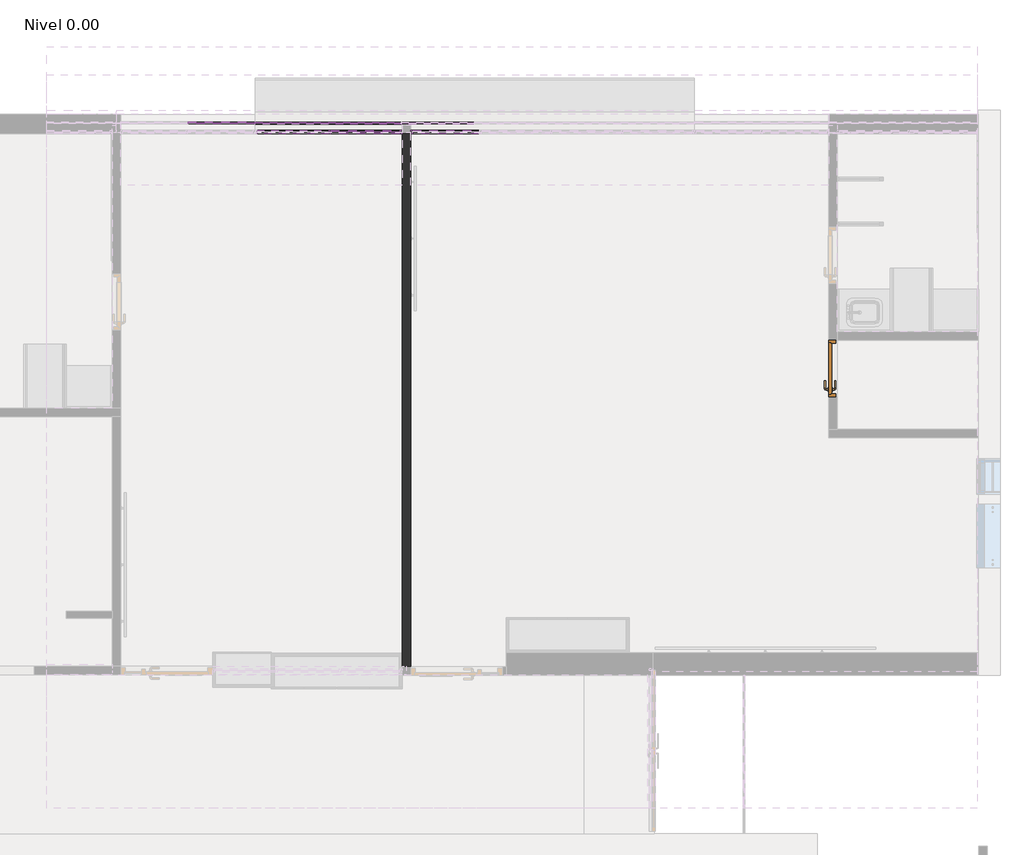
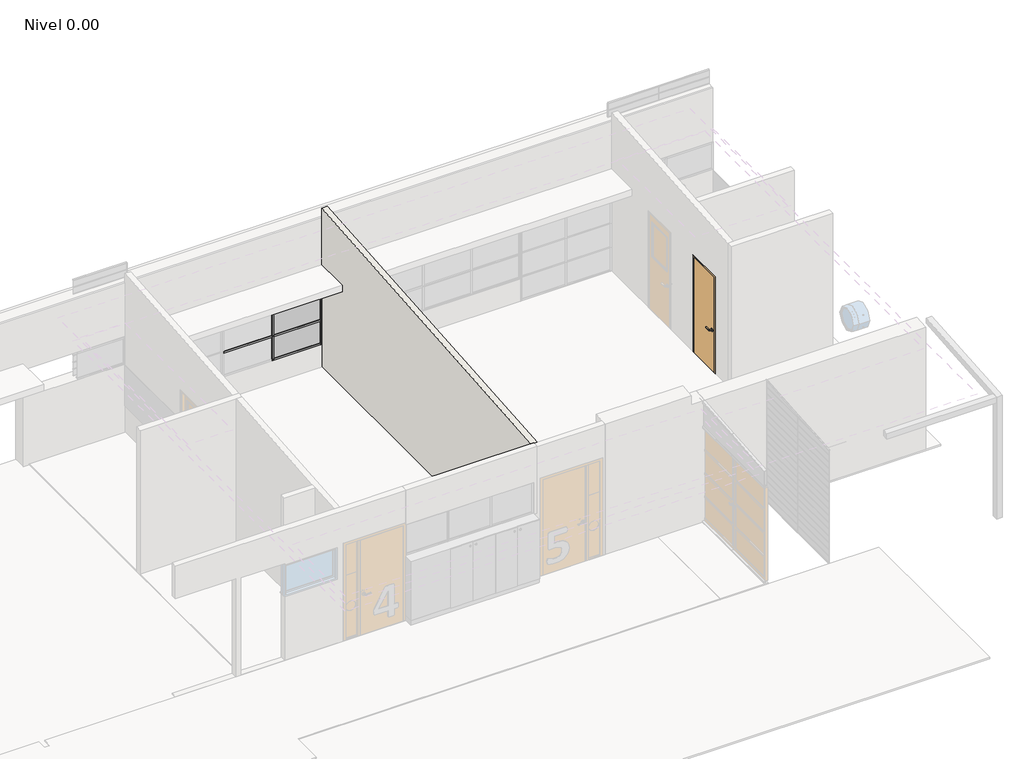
# One storey, part 22 of 27: 93 members, 36 plates, 1 door, 1 wall.
"""IFC4 building model written with IfcOpenShell, lengths in millimetres."""

from ifc_helpers import new_model, si_unit, origin, place, context, project, spatial, faceted_brep, transform, mapped, element, save
from components import puerta_c_06_c06_800x2100mm_e445e519, circular_mullion_e15963ea, circular_mullion_e1cfff8a, l_corner_mullion_3f4548f9, l_corner_mullion_de296168, rectangular_mullion_bbf09746, rectangular_mullion_f7ba8490, rectangular_mullion_367cbfe8, rectangular_mullion_75f94093, rectangular_mullion_56379c35, rectangular_mullion_e1952a32, rectangular_mullion_0dcc9bbc, rectangular_mullion_e6a89077, rectangular_mullion_bccfeea3, rectangular_mullion_bc77bd75, rectangular_mullion_9fa35bb9, system_panel_96c10789, system_panel_978f9d48, system_panel_glazed_52b7ae70, system_panel_glazed_78c145c0

model = new_model("IFC4")

# Units and contexts
model_context = context("Model", 3, world=origin())
ifc_project = project(units=[si_unit("LENGTHUNIT", "METRE", prefix="MILLI")], contexts=[model_context])

# Site, building, storey
site = spatial("IfcSite", under=ifc_project)
building = spatial("IfcBuilding", under=site)
storey = spatial("IfcBuildingStorey", under=building, Name="Nivel 0.00", Elevation=0.0)

# Door
placement = place(None, origin())
puerta_c_06_c06_800x2100mm_shape = puerta_c_06_c06_800x2100mm_e445e519(model_context)
element("IfcDoor", 1, ObjectType="PUERTA_C-06 : C06_800X2100mm", at=placement, inside=storey, context=model_context, shape_type="MappedRepresentation", body=[
    mapped(puerta_c_06_c06_800x2100mm_shape, transform((15551.5453298, 3489.0718892, 0.0), x_axis=(0.0, 1.0, 0.0), y_axis=(-1.0, 0.0, 0.0), z_axis=(0.0, 0.0, 1.0))),
])

# Members
circular_mullion_shape = circular_mullion_e15963ea(model_context)
element("IfcMember", 2, ObjectType="Circular Mullion : ARQ_HERR_16mm", at=placement, inside=storey, context=model_context, shape_type="MappedRepresentation", body=[
    mapped(circular_mullion_shape, transform((9448.8114401, 6959.4460983, 645.4545455), x_axis=(0.0, 0.0, 1.0), y_axis=(0.0, 1.0, 0.0), z_axis=(-1.0, 0.0, 0.0))),
])
element("IfcMember", 3, ObjectType="Circular Mullion : ARQ_HERR_16mm", at=placement, inside=storey, context=model_context, shape_type="MappedRepresentation", body=[
    mapped(circular_mullion_shape, transform((8414.8176411, 6959.4460983, 645.4545455), x_axis=(0.0, 0.0, 1.0), y_axis=(0.0, 1.0, 0.0), z_axis=(-1.0, 0.0, 0.0))),
])
element("IfcMember", 4, ObjectType="Circular Mullion : ARQ_HERR_16mm", at=placement, inside=storey, context=model_context, shape_type="MappedRepresentation", body=[
    mapped(circular_mullion_shape, transform((9448.8114401, 6959.4460983, 790.9090909), x_axis=(0.0, 0.0, 1.0), y_axis=(0.0, 1.0, 0.0), z_axis=(-1.0, 0.0, 0.0))),
])
element("IfcMember", 5, ObjectType="Circular Mullion : ARQ_HERR_16mm", at=placement, inside=storey, context=model_context, shape_type="MappedRepresentation", body=[
    mapped(circular_mullion_shape, transform((8414.8176411, 6959.4460983, 790.9090909), x_axis=(0.0, 0.0, 1.0), y_axis=(0.0, 1.0, 0.0), z_axis=(-1.0, 0.0, 0.0))),
])
element("IfcMember", 6, ObjectType="Circular Mullion : ARQ_HERR_16mm", at=placement, inside=storey, context=model_context, shape_type="MappedRepresentation", body=[
    mapped(circular_mullion_shape, transform((9448.8114401, 6959.4460983, 936.3636364), x_axis=(0.0, 0.0, 1.0), y_axis=(0.0, 1.0, 0.0), z_axis=(-1.0, 0.0, 0.0))),
])
element("IfcMember", 7, ObjectType="Circular Mullion : ARQ_HERR_16mm", at=placement, inside=storey, context=model_context, shape_type="MappedRepresentation", body=[
    mapped(circular_mullion_shape, transform((8414.8176411, 6959.4460983, 936.3636364), x_axis=(0.0, 0.0, 1.0), y_axis=(0.0, 1.0, 0.0), z_axis=(-1.0, 0.0, 0.0))),
])
element("IfcMember", 8, ObjectType="Circular Mullion : ARQ_HERR_16mm", at=placement, inside=storey, context=model_context, shape_type="MappedRepresentation", body=[
    mapped(circular_mullion_shape, transform((9448.8114401, 6959.4460983, 1081.8181818), x_axis=(0.0, 0.0, 1.0), y_axis=(0.0, 1.0, 0.0), z_axis=(-1.0, 0.0, 0.0))),
])
element("IfcMember", 9, ObjectType="Circular Mullion : ARQ_HERR_16mm", at=placement, inside=storey, context=model_context, shape_type="MappedRepresentation", body=[
    mapped(circular_mullion_shape, transform((8414.8176411, 6959.4460983, 1081.8181818), x_axis=(0.0, 0.0, 1.0), y_axis=(0.0, 1.0, 0.0), z_axis=(-1.0, 0.0, 0.0))),
])
element("IfcMember", 10, ObjectType="Circular Mullion : ARQ_HERR_16mm", at=placement, inside=storey, context=model_context, shape_type="MappedRepresentation", body=[
    mapped(circular_mullion_shape, transform((9448.8114401, 6959.4460983, 1227.2727273), x_axis=(0.0, 0.0, 1.0), y_axis=(0.0, 1.0, 0.0), z_axis=(-1.0, 0.0, 0.0))),
])
element("IfcMember", 11, ObjectType="Circular Mullion : ARQ_HERR_16mm", at=placement, inside=storey, context=model_context, shape_type="MappedRepresentation", body=[
    mapped(circular_mullion_shape, transform((8414.8176411, 6959.4460983, 1227.2727273), x_axis=(0.0, 0.0, 1.0), y_axis=(0.0, 1.0, 0.0), z_axis=(-1.0, 0.0, 0.0))),
])
element("IfcMember", 12, ObjectType="Circular Mullion : ARQ_HERR_16mm", at=placement, inside=storey, context=model_context, shape_type="MappedRepresentation", body=[
    mapped(circular_mullion_shape, transform((9448.8114401, 6959.4460983, 1372.7272727), x_axis=(0.0, 0.0, 1.0), y_axis=(0.0, 1.0, 0.0), z_axis=(-1.0, 0.0, 0.0))),
])
element("IfcMember", 13, ObjectType="Circular Mullion : ARQ_HERR_16mm", at=placement, inside=storey, context=model_context, shape_type="MappedRepresentation", body=[
    mapped(circular_mullion_shape, transform((8414.8176411, 6959.4460983, 1372.7272727), x_axis=(0.0, 0.0, 1.0), y_axis=(0.0, 1.0, 0.0), z_axis=(-1.0, 0.0, 0.0))),
])
element("IfcMember", 14, ObjectType="Circular Mullion : ARQ_HERR_16mm", at=placement, inside=storey, context=model_context, shape_type="MappedRepresentation", body=[
    mapped(circular_mullion_shape, transform((8414.8176411, 6959.4460983, 1518.1818182), x_axis=(0.0, 0.0, 1.0), y_axis=(0.0, 1.0, 0.0), z_axis=(-1.0, 0.0, 0.0))),
])
element("IfcMember", 15, ObjectType="Circular Mullion : ARQ_HERR_16mm", at=placement, inside=storey, context=model_context, shape_type="MappedRepresentation", body=[
    mapped(circular_mullion_shape, transform((8414.8176411, 6959.4460983, 1663.6363636), x_axis=(0.0, 0.0, 1.0), y_axis=(0.0, 1.0, 0.0), z_axis=(-1.0, 0.0, 0.0))),
])
element("IfcMember", 16, ObjectType="Circular Mullion : ARQ_HERR_16mm", at=placement, inside=storey, context=model_context, shape_type="MappedRepresentation", body=[
    mapped(circular_mullion_shape, transform((8414.8176411, 6959.4460983, 1809.0909091), x_axis=(0.0, 0.0, 1.0), y_axis=(0.0, 1.0, 0.0), z_axis=(-1.0, 0.0, 0.0))),
])
element("IfcMember", 17, ObjectType="Circular Mullion : ARQ_HERR_16mm", at=placement, inside=storey, context=model_context, shape_type="MappedRepresentation", body=[
    mapped(circular_mullion_shape, transform((8414.8176411, 6959.4460983, 1954.5454545), x_axis=(0.0, 0.0, 1.0), y_axis=(0.0, 1.0, 0.0), z_axis=(-1.0, 0.0, 0.0))),
])
element("IfcMember", 18, ObjectType="Circular Mullion : ARQ_HERR_16mm", at=placement, inside=storey, context=model_context, shape_type="MappedRepresentation", body=[
    mapped(circular_mullion_shape, transform((7380.8238418, 6959.4460983, 645.4545455), x_axis=(0.0, 0.0, 1.0), y_axis=(0.0, 1.0, 0.0), z_axis=(-1.0, 0.0, 0.0))),
])
element("IfcMember", 19, ObjectType="Circular Mullion : ARQ_HERR_16mm", at=placement, inside=storey, context=model_context, shape_type="MappedRepresentation", body=[
    mapped(circular_mullion_shape, transform((7380.8238418, 6959.4460983, 790.9090909), x_axis=(0.0, 0.0, 1.0), y_axis=(0.0, 1.0, 0.0), z_axis=(-1.0, 0.0, 0.0))),
])
element("IfcMember", 20, ObjectType="Circular Mullion : ARQ_HERR_16mm", at=placement, inside=storey, context=model_context, shape_type="MappedRepresentation", body=[
    mapped(circular_mullion_shape, transform((7380.8238418, 6959.4460983, 936.3636364), x_axis=(0.0, 0.0, 1.0), y_axis=(0.0, 1.0, 0.0), z_axis=(-1.0, 0.0, 0.0))),
])
element("IfcMember", 21, ObjectType="Circular Mullion : ARQ_HERR_16mm", at=placement, inside=storey, context=model_context, shape_type="MappedRepresentation", body=[
    mapped(circular_mullion_shape, transform((7380.8238418, 6959.4460983, 1081.8181818), x_axis=(0.0, 0.0, 1.0), y_axis=(0.0, 1.0, 0.0), z_axis=(-1.0, 0.0, 0.0))),
])
element("IfcMember", 22, ObjectType="Circular Mullion : ARQ_HERR_16mm", at=placement, inside=storey, context=model_context, shape_type="MappedRepresentation", body=[
    mapped(circular_mullion_shape, transform((7380.8238418, 6959.4460983, 1227.2727273), x_axis=(0.0, 0.0, 1.0), y_axis=(0.0, 1.0, 0.0), z_axis=(-1.0, 0.0, 0.0))),
])
element("IfcMember", 23, ObjectType="Circular Mullion : ARQ_HERR_16mm", at=placement, inside=storey, context=model_context, shape_type="MappedRepresentation", body=[
    mapped(circular_mullion_shape, transform((7380.8238418, 6959.4460983, 1372.7272727), x_axis=(0.0, 0.0, 1.0), y_axis=(0.0, 1.0, 0.0), z_axis=(-1.0, 0.0, 0.0))),
])
element("IfcMember", 24, ObjectType="Circular Mullion : ARQ_HERR_16mm", at=placement, inside=storey, context=model_context, shape_type="MappedRepresentation", body=[
    mapped(circular_mullion_shape, transform((7380.8238418, 6959.4460983, 1518.1818182), x_axis=(0.0, 0.0, 1.0), y_axis=(0.0, 1.0, 0.0), z_axis=(-1.0, 0.0, 0.0))),
])
element("IfcMember", 25, ObjectType="Circular Mullion : ARQ_HERR_16mm", at=placement, inside=storey, context=model_context, shape_type="MappedRepresentation", body=[
    mapped(circular_mullion_shape, transform((7380.8238418, 6959.4460983, 1663.6363636), x_axis=(0.0, 0.0, 1.0), y_axis=(0.0, 1.0, 0.0), z_axis=(-1.0, 0.0, 0.0))),
])
element("IfcMember", 26, ObjectType="Circular Mullion : ARQ_HERR_16mm", at=placement, inside=storey, context=model_context, shape_type="MappedRepresentation", body=[
    mapped(circular_mullion_shape, transform((7380.8238418, 6959.4460983, 1809.0909091), x_axis=(0.0, 0.0, 1.0), y_axis=(0.0, 1.0, 0.0), z_axis=(-1.0, 0.0, 0.0))),
])
element("IfcMember", 27, ObjectType="Circular Mullion : ARQ_HERR_16mm", at=placement, inside=storey, context=model_context, shape_type="MappedRepresentation", body=[
    mapped(circular_mullion_shape, transform((7380.8238418, 6959.4460983, 1954.5454545), x_axis=(0.0, 0.0, 1.0), y_axis=(0.0, 1.0, 0.0), z_axis=(-1.0, 0.0, 0.0))),
])
circular_mullion_2_shape = circular_mullion_e1cfff8a(model_context)
element("IfcMember", 28, ObjectType="Circular Mullion : ARQ_HERR_16mm", at=placement, inside=storey, context=model_context, shape_type="MappedRepresentation", body=[
    mapped(circular_mullion_2_shape, transform((7368.6614898, 6959.43912, 150.0), x_axis=(0.0, 0.0, 1.0), y_axis=(0.0, -1.0, 0.0), z_axis=(1.0, 0.0, 0.0))),
])
element("IfcMember", 29, ObjectType="Circular Mullion : ARQ_HERR_16mm", at=placement, inside=storey, context=model_context, shape_type="MappedRepresentation", body=[
    mapped(circular_mullion_2_shape, transform((7368.6614898, 6959.43912, 300.0), x_axis=(0.0, 0.0, 1.0), y_axis=(0.0, -1.0, 0.0), z_axis=(1.0, 0.0, 0.0))),
])
element("IfcMember", 30, ObjectType="Circular Mullion : ARQ_HERR_16mm", at=placement, inside=storey, context=model_context, shape_type="MappedRepresentation", body=[
    mapped(circular_mullion_2_shape, transform((7368.6614898, 6959.43912, 450.0), x_axis=(0.0, 0.0, 1.0), y_axis=(0.0, -1.0, 0.0), z_axis=(1.0, 0.0, 0.0))),
])
element("IfcMember", 31, ObjectType="Circular Mullion : ARQ_HERR_16mm", at=placement, inside=storey, context=model_context, shape_type="MappedRepresentation", body=[
    mapped(circular_mullion_2_shape, transform((7368.6614898, 6959.43912, 600.0), x_axis=(0.0, 0.0, 1.0), y_axis=(0.0, -1.0, 0.0), z_axis=(1.0, 0.0, 0.0))),
])
element("IfcMember", 32, ObjectType="Circular Mullion : ARQ_HERR_16mm", at=placement, inside=storey, context=model_context, shape_type="MappedRepresentation", body=[
    mapped(circular_mullion_2_shape, transform((7368.6614898, 6959.43912, 750.0), x_axis=(0.0, 0.0, 1.0), y_axis=(0.0, -1.0, 0.0), z_axis=(1.0, 0.0, 0.0))),
])
element("IfcMember", 33, ObjectType="Circular Mullion : ARQ_HERR_16mm", at=placement, inside=storey, context=model_context, shape_type="MappedRepresentation", body=[
    mapped(circular_mullion_2_shape, transform((7368.6614898, 6959.43912, 900.0), x_axis=(0.0, 0.0, 1.0), y_axis=(0.0, -1.0, 0.0), z_axis=(1.0, 0.0, 0.0))),
])
element("IfcMember", 34, ObjectType="Circular Mullion : ARQ_HERR_16mm", at=placement, inside=storey, context=model_context, shape_type="MappedRepresentation", body=[
    mapped(circular_mullion_2_shape, transform((7368.6614898, 6959.43912, 1050.0), x_axis=(0.0, 0.0, 1.0), y_axis=(0.0, -1.0, 0.0), z_axis=(1.0, 0.0, 0.0))),
])
element("IfcMember", 35, ObjectType="Circular Mullion : ARQ_HERR_16mm", at=placement, inside=storey, context=model_context, shape_type="MappedRepresentation", body=[
    mapped(circular_mullion_2_shape, transform((7368.6614898, 6959.43912, 1200.0), x_axis=(0.0, 0.0, 1.0), y_axis=(0.0, -1.0, 0.0), z_axis=(1.0, 0.0, 0.0))),
])
element("IfcMember", 36, ObjectType="Circular Mullion : ARQ_HERR_16mm", at=placement, inside=storey, context=model_context, shape_type="MappedRepresentation", body=[
    mapped(circular_mullion_2_shape, transform((7368.6614898, 6959.43912, 1350.0), x_axis=(0.0, 0.0, 1.0), y_axis=(0.0, -1.0, 0.0), z_axis=(1.0, 0.0, 0.0))),
])
element("IfcMember", 37, ObjectType="Circular Mullion : ARQ_HERR_16mm", at=placement, inside=storey, context=model_context, shape_type="MappedRepresentation", body=[
    mapped(circular_mullion_2_shape, transform((7368.6614898, 6959.43912, 1500.0), x_axis=(0.0, 0.0, 1.0), y_axis=(0.0, -1.0, 0.0), z_axis=(1.0, 0.0, 0.0))),
])
element("IfcMember", 38, ObjectType="Circular Mullion : ARQ_HERR_16mm", at=placement, inside=storey, context=model_context, shape_type="MappedRepresentation", body=[
    mapped(circular_mullion_2_shape, transform((7368.6614898, 6959.43912, 1650.0), x_axis=(0.0, 0.0, 1.0), y_axis=(0.0, -1.0, 0.0), z_axis=(1.0, 0.0, 0.0))),
])
element("IfcMember", 39, ObjectType="Circular Mullion : ARQ_HERR_16mm", at=placement, inside=storey, context=model_context, shape_type="MappedRepresentation", body=[
    mapped(circular_mullion_2_shape, transform((7368.6614898, 6959.43912, 1800.0), x_axis=(0.0, 0.0, 1.0), y_axis=(0.0, -1.0, 0.0), z_axis=(1.0, 0.0, 0.0))),
])
element("IfcMember", 40, ObjectType="Circular Mullion : ARQ_HERR_16mm", at=placement, inside=storey, context=model_context, shape_type="MappedRepresentation", body=[
    mapped(circular_mullion_2_shape, transform((7368.6614898, 6959.43912, 1950.0), x_axis=(0.0, 0.0, 1.0), y_axis=(0.0, -1.0, 0.0), z_axis=(1.0, 0.0, 0.0))),
])
l_corner_mullion_shape = l_corner_mullion_3f4548f9(model_context)
element("IfcMember", 41, ObjectType="L Corner Mullion : ARQ_HERR_15X6mm", at=placement, inside=storey, context=model_context, shape_type="MappedRepresentation", body=[
    mapped(l_corner_mullion_shape, transform((9448.8114401, 6959.4460983, 2100.0), x_axis=(0.0, 0.0, 1.0), y_axis=(0.0, 1.0, 0.0), z_axis=(-1.0, 0.0, 0.0))),
])
element("IfcMember", 42, ObjectType="L Corner Mullion : ARQ_HERR_15X6mm", at=placement, inside=storey, context=model_context, shape_type="MappedRepresentation", body=[
    mapped(l_corner_mullion_shape, transform((8414.8176411, 6959.4460983, 2100.0), x_axis=(0.0, 0.0, 1.0), y_axis=(0.0, 1.0, 0.0), z_axis=(-1.0, 0.0, 0.0))),
])
element("IfcMember", 43, ObjectType="L Corner Mullion : ARQ_HERR_15X6mm", at=placement, inside=storey, context=model_context, shape_type="MappedRepresentation", body=[
    mapped(l_corner_mullion_shape, transform((9442.8114401, 6959.4460983, 500.0), x_axis=(0.0, 0.0, -1.0), y_axis=(0.0, 1.0, 0.0), z_axis=(1.0, 0.0, 0.0))),
])
element("IfcMember", 44, ObjectType="L Corner Mullion : ARQ_HERR_15X6mm", at=placement, inside=storey, context=model_context, shape_type="MappedRepresentation", body=[
    mapped(l_corner_mullion_shape, transform((8408.8176411, 6959.4460983, 500.0), x_axis=(0.0, 0.0, -1.0), y_axis=(0.0, 1.0, 0.0), z_axis=(1.0, 0.0, 0.0))),
])
l_corner_mullion_2_shape = l_corner_mullion_de296168(model_context)
element("IfcMember", 45, ObjectType="L Corner Mullion : ARQ_HERR_15X6mm", at=placement, inside=storey, context=model_context, shape_type="MappedRepresentation", body=[
    mapped(l_corner_mullion_2_shape, transform((7368.6614898, 6959.43912, 2100.0), x_axis=(0.0, 0.0, 1.0), y_axis=(0.0, -1.0, 0.0), z_axis=(1.0, 0.0, 0.0))),
])
rectangular_mullion_shape = rectangular_mullion_bbf09746(model_context)
element("IfcMember", 46, ObjectType="Rectangular Mullion : ARQ_TV_MULL_50x30mm", at=placement, inside=storey, context=model_context, shape_type="MappedRepresentation", body=[
    mapped(rectangular_mullion_shape, transform((8429.5903101, 6834.4460983, 500.0), x_axis=(1.0, 0.0, 0.0), y_axis=(0.0, -1.0, 0.0), z_axis=(0.0, 0.0, -1.0))),
])
element("IfcMember", 47, ObjectType="Rectangular Mullion : ARQ_TV_MULL_50x30mm", at=placement, inside=storey, context=model_context, shape_type="MappedRepresentation", body=[
    mapped(rectangular_mullion_shape, transform((8429.5903101, 6834.4460983, 1033.3333333), x_axis=(1.0, 0.0, 0.0), y_axis=(0.0, -1.0, 0.0), z_axis=(0.0, 0.0, -1.0))),
])
element("IfcMember", 48, ObjectType="Rectangular Mullion : ARQ_TV_MULL_50x30mm", at=placement, inside=storey, context=model_context, shape_type="MappedRepresentation", body=[
    mapped(rectangular_mullion_shape, transform((8429.5903101, 6834.4460983, 1566.6666667), x_axis=(1.0, 0.0, 0.0), y_axis=(0.0, -1.0, 0.0), z_axis=(0.0, 0.0, -1.0))),
])
rectangular_mullion_2_shape = rectangular_mullion_f7ba8490(model_context)
element("IfcMember", 49, ObjectType="Rectangular Mullion : ARQ_TV_MULL_50x30mm", at=placement, inside=storey, context=model_context, shape_type="MappedRepresentation", body=[
    mapped(rectangular_mullion_2_shape, transform((9574.3567784, 6834.4391195, 500.0), x_axis=(-1.0, 0.0, 0.0), y_axis=(0.0, 1.0, 0.0), z_axis=(0.0, 0.0, -1.0))),
])
element("IfcMember", 50, ObjectType="Rectangular Mullion : ARQ_TV_MULL_50x30mm", at=placement, inside=storey, context=model_context, shape_type="MappedRepresentation", body=[
    mapped(rectangular_mullion_2_shape, transform((9454.3567784, 6834.4460983, 500.0), x_axis=(1.0, 0.0, 0.0), y_axis=(0.0, -1.0, 0.0), z_axis=(0.0, 0.0, -1.0))),
])
element("IfcMember", 51, ObjectType="Rectangular Mullion : ARQ_TV_MULL_50x30mm", at=placement, inside=storey, context=model_context, shape_type="MappedRepresentation", body=[
    mapped(rectangular_mullion_2_shape, transform((9574.3567784, 6834.4391195, 1033.3333333), x_axis=(-1.0, 0.0, 0.0), y_axis=(0.0, 1.0, 0.0), z_axis=(0.0, 0.0, -1.0))),
])
element("IfcMember", 52, ObjectType="Rectangular Mullion : ARQ_TV_MULL_50x30mm", at=placement, inside=storey, context=model_context, shape_type="MappedRepresentation", body=[
    mapped(rectangular_mullion_2_shape, transform((9454.3567784, 6834.4460983, 1033.3333333), x_axis=(1.0, 0.0, 0.0), y_axis=(0.0, -1.0, 0.0), z_axis=(0.0, 0.0, -1.0))),
])
element("IfcMember", 53, ObjectType="Rectangular Mullion : ARQ_TV_MULL_50x30mm", at=placement, inside=storey, context=model_context, shape_type="MappedRepresentation", body=[
    mapped(rectangular_mullion_2_shape, transform((9574.3567784, 6834.4391195, 1566.6666667), x_axis=(-1.0, 0.0, 0.0), y_axis=(0.0, 1.0, 0.0), z_axis=(0.0, 0.0, -1.0))),
])
element("IfcMember", 54, ObjectType="Rectangular Mullion : ARQ_TV_MULL_50x30mm", at=placement, inside=storey, context=model_context, shape_type="MappedRepresentation", body=[
    mapped(rectangular_mullion_2_shape, transform((9454.3567784, 6834.4460983, 1566.6666667), x_axis=(1.0, 0.0, 0.0), y_axis=(0.0, -1.0, 0.0), z_axis=(0.0, 0.0, -1.0))),
])
rectangular_mullion_3_shape = rectangular_mullion_367cbfe8(model_context)
element("IfcMember", 55, ObjectType="Rectangular Mullion : ARQ_TV_MULL_50x30mm", at=placement, inside=storey, context=model_context, shape_type="MappedRepresentation", body=[
    mapped(rectangular_mullion_3_shape, transform((9604.3567784, 6834.4391195, 2100.0), x_axis=(0.0, 0.0, 1.0), y_axis=(0.0, 1.0, 0.0), z_axis=(-1.0, 0.0, 0.0))),
])
rectangular_mullion_4_shape = rectangular_mullion_75f94093(model_context)
element("IfcMember", 56, ObjectType="Rectangular Mullion : ARQ_TV_MULL_50x30mm", at=placement, inside=storey, context=model_context, shape_type="MappedRepresentation", body=[
    mapped(rectangular_mullion_4_shape, transform((9604.3567784, 6834.4391195, 1033.3333333), x_axis=(0.0, 0.0, 1.0), y_axis=(0.0, 1.0, 0.0), z_axis=(-1.0, 0.0, 0.0))),
])
element("IfcMember", 57, ObjectType="Rectangular Mullion : ARQ_TV_MULL_50x30mm", at=placement, inside=storey, context=model_context, shape_type="MappedRepresentation", body=[
    mapped(rectangular_mullion_4_shape, transform((9604.3567784, 6834.4391195, 1566.6666667), x_axis=(0.0, 0.0, 1.0), y_axis=(0.0, 1.0, 0.0), z_axis=(-1.0, 0.0, 0.0))),
])
rectangular_mullion_5_shape = rectangular_mullion_56379c35(model_context)
element("IfcMember", 58, ObjectType="Rectangular Mullion : ARQ_TV_MULL_50x30mm", at=placement, inside=storey, context=model_context, shape_type="MappedRepresentation", body=[
    mapped(rectangular_mullion_5_shape, transform((9424.3567784, 6834.4460983, 2100.0), x_axis=(0.0, 0.0, 1.0), y_axis=(0.0, -1.0, 0.0), z_axis=(1.0, 0.0, 0.0))),
])
rectangular_mullion_6_shape = rectangular_mullion_e1952a32(model_context)
element("IfcMember", 59, ObjectType="Rectangular Mullion : ARQ_TV_MULL_50x30mm", at=placement, inside=storey, context=model_context, shape_type="MappedRepresentation", body=[
    mapped(rectangular_mullion_6_shape, transform((8414.5903101, 6834.4460983, 2100.0), x_axis=(0.0, 0.0, 1.0), y_axis=(0.0, -1.0, 0.0), z_axis=(1.0, 0.0, 0.0))),
])
element("IfcMember", 60, ObjectType="Rectangular Mullion : ARQ_TV_MULL_50x30mm", at=placement, inside=storey, context=model_context, shape_type="MappedRepresentation", body=[
    mapped(rectangular_mullion_5_shape, transform((8444.5903101, 6834.4460983, 500.0), x_axis=(0.0, 0.0, -1.0), y_axis=(0.0, -1.0, 0.0), z_axis=(-1.0, 0.0, 0.0))),
])
rectangular_mullion_7_shape = rectangular_mullion_0dcc9bbc(model_context)
element("IfcMember", 61, ObjectType="Rectangular Mullion : ARQ_TV_MULL_50x30mm", at=placement, inside=storey, context=model_context, shape_type="MappedRepresentation", body=[
    mapped(rectangular_mullion_7_shape, transform((8414.5903101, 6834.4460983, 1033.3333333), x_axis=(0.0, 0.0, 1.0), y_axis=(0.0, -1.0, 0.0), z_axis=(1.0, 0.0, 0.0))),
])
element("IfcMember", 62, ObjectType="Rectangular Mullion : ARQ_TV_MULL_50x30mm", at=placement, inside=storey, context=model_context, shape_type="MappedRepresentation", body=[
    mapped(rectangular_mullion_7_shape, transform((8414.5903101, 6834.4460983, 1566.6666667), x_axis=(0.0, 0.0, 1.0), y_axis=(0.0, -1.0, 0.0), z_axis=(1.0, 0.0, 0.0))),
])
rectangular_mullion_8_shape = rectangular_mullion_e6a89077(model_context)
element("IfcMember", 63, ObjectType="Rectangular Mullion : ARQ_TV_MULL_50x30mm", at=placement, inside=storey, context=model_context, shape_type="MappedRepresentation", body=[
    mapped(rectangular_mullion_8_shape, transform((9424.3567784, 6834.4460983, 1033.3333333), x_axis=(0.0, 0.0, 1.0), y_axis=(0.0, -1.0, 0.0), z_axis=(1.0, 0.0, 0.0))),
])
element("IfcMember", 64, ObjectType="Rectangular Mullion : ARQ_TV_MULL_50x30mm", at=placement, inside=storey, context=model_context, shape_type="MappedRepresentation", body=[
    mapped(rectangular_mullion_8_shape, transform((9424.3567784, 6834.4460983, 1566.6666667), x_axis=(0.0, 0.0, 1.0), y_axis=(0.0, -1.0, 0.0), z_axis=(1.0, 0.0, 0.0))),
])
rectangular_mullion_9_shape = rectangular_mullion_bccfeea3(model_context)
element("IfcMember", 65, ObjectType="Rectangular Mullion : ARQ_HERR_15X6mm", at=placement, inside=storey, context=model_context, shape_type="MappedRepresentation", body=[
    mapped(rectangular_mullion_9_shape, transform((7374.6614898, 6959.43912, 0.0), x_axis=(1.0, 0.0, 0.0), y_axis=(0.0, -1.0, 0.0), z_axis=(0.0, 0.0, -1.0))),
])
element("IfcMember", 66, ObjectType="Rectangular Mullion : ARQ_HERR_15X6mm", at=placement, inside=storey, context=model_context, shape_type="MappedRepresentation", body=[
    mapped(rectangular_mullion_9_shape, transform((7374.6614898, 6959.43912, 150.0), x_axis=(1.0, 0.0, 0.0), y_axis=(0.0, -1.0, 0.0), z_axis=(0.0, 0.0, -1.0))),
])
element("IfcMember", 67, ObjectType="Rectangular Mullion : ARQ_HERR_15X6mm", at=placement, inside=storey, context=model_context, shape_type="MappedRepresentation", body=[
    mapped(rectangular_mullion_9_shape, transform((7374.6614898, 6959.43912, 300.0), x_axis=(1.0, 0.0, 0.0), y_axis=(0.0, -1.0, 0.0), z_axis=(0.0, 0.0, -1.0))),
])
element("IfcMember", 68, ObjectType="Rectangular Mullion : ARQ_HERR_15X6mm", at=placement, inside=storey, context=model_context, shape_type="MappedRepresentation", body=[
    mapped(rectangular_mullion_9_shape, transform((7374.6614898, 6959.43912, 450.0), x_axis=(1.0, 0.0, 0.0), y_axis=(0.0, -1.0, 0.0), z_axis=(0.0, 0.0, -1.0))),
])
element("IfcMember", 69, ObjectType="Rectangular Mullion : ARQ_HERR_15X6mm", at=placement, inside=storey, context=model_context, shape_type="MappedRepresentation", body=[
    mapped(rectangular_mullion_9_shape, transform((7374.6614898, 6959.43912, 600.0), x_axis=(1.0, 0.0, 0.0), y_axis=(0.0, -1.0, 0.0), z_axis=(0.0, 0.0, -1.0))),
])
element("IfcMember", 70, ObjectType="Rectangular Mullion : ARQ_HERR_15X6mm", at=placement, inside=storey, context=model_context, shape_type="MappedRepresentation", body=[
    mapped(rectangular_mullion_9_shape, transform((7374.6614898, 6959.43912, 750.0), x_axis=(1.0, 0.0, 0.0), y_axis=(0.0, -1.0, 0.0), z_axis=(0.0, 0.0, -1.0))),
])
element("IfcMember", 71, ObjectType="Rectangular Mullion : ARQ_HERR_15X6mm", at=placement, inside=storey, context=model_context, shape_type="MappedRepresentation", body=[
    mapped(rectangular_mullion_9_shape, transform((7374.6614898, 6959.43912, 900.0), x_axis=(1.0, 0.0, 0.0), y_axis=(0.0, -1.0, 0.0), z_axis=(0.0, 0.0, -1.0))),
])
element("IfcMember", 72, ObjectType="Rectangular Mullion : ARQ_HERR_15X6mm", at=placement, inside=storey, context=model_context, shape_type="MappedRepresentation", body=[
    mapped(rectangular_mullion_9_shape, transform((7374.6614898, 6959.43912, 1050.0), x_axis=(1.0, 0.0, 0.0), y_axis=(0.0, -1.0, 0.0), z_axis=(0.0, 0.0, -1.0))),
])
element("IfcMember", 73, ObjectType="Rectangular Mullion : ARQ_HERR_15X6mm", at=placement, inside=storey, context=model_context, shape_type="MappedRepresentation", body=[
    mapped(rectangular_mullion_9_shape, transform((7374.6614898, 6959.43912, 1200.0), x_axis=(1.0, 0.0, 0.0), y_axis=(0.0, -1.0, 0.0), z_axis=(0.0, 0.0, -1.0))),
])
element("IfcMember", 74, ObjectType="Rectangular Mullion : ARQ_HERR_15X6mm", at=placement, inside=storey, context=model_context, shape_type="MappedRepresentation", body=[
    mapped(rectangular_mullion_9_shape, transform((7374.6614898, 6959.43912, 1350.0), x_axis=(1.0, 0.0, 0.0), y_axis=(0.0, -1.0, 0.0), z_axis=(0.0, 0.0, -1.0))),
])
element("IfcMember", 75, ObjectType="Rectangular Mullion : ARQ_HERR_15X6mm", at=placement, inside=storey, context=model_context, shape_type="MappedRepresentation", body=[
    mapped(rectangular_mullion_9_shape, transform((7374.6614898, 6959.43912, 1500.0), x_axis=(1.0, 0.0, 0.0), y_axis=(0.0, -1.0, 0.0), z_axis=(0.0, 0.0, -1.0))),
])
element("IfcMember", 76, ObjectType="Rectangular Mullion : ARQ_HERR_15X6mm", at=placement, inside=storey, context=model_context, shape_type="MappedRepresentation", body=[
    mapped(rectangular_mullion_9_shape, transform((7374.6614898, 6959.43912, 1650.0), x_axis=(1.0, 0.0, 0.0), y_axis=(0.0, -1.0, 0.0), z_axis=(0.0, 0.0, -1.0))),
])
element("IfcMember", 77, ObjectType="Rectangular Mullion : ARQ_HERR_15X6mm", at=placement, inside=storey, context=model_context, shape_type="MappedRepresentation", body=[
    mapped(rectangular_mullion_9_shape, transform((7374.6614898, 6959.43912, 1800.0), x_axis=(1.0, 0.0, 0.0), y_axis=(0.0, -1.0, 0.0), z_axis=(0.0, 0.0, -1.0))),
])
element("IfcMember", 78, ObjectType="Rectangular Mullion : ARQ_HERR_15X6mm", at=placement, inside=storey, context=model_context, shape_type="MappedRepresentation", body=[
    mapped(rectangular_mullion_9_shape, transform((7374.6614898, 6959.43912, 1950.0), x_axis=(1.0, 0.0, 0.0), y_axis=(0.0, -1.0, 0.0), z_axis=(0.0, 0.0, -1.0))),
])
rectangular_mullion_10_shape = rectangular_mullion_bc77bd75(model_context)
element("IfcMember", 79, ObjectType="Rectangular Mullion : ARQ_HERR_15X6mm", at=placement, inside=storey, context=model_context, shape_type="MappedRepresentation", body=[
    mapped(rectangular_mullion_10_shape, transform((8411.8176411, 6959.4460983, 500.0), x_axis=(-1.0, 0.0, 0.0), y_axis=(0.0, 1.0, 0.0), z_axis=(0.0, 0.0, -1.0))),
])
element("IfcMember", 80, ObjectType="Rectangular Mullion : ARQ_HERR_15X6mm", at=placement, inside=storey, context=model_context, shape_type="MappedRepresentation", body=[
    mapped(rectangular_mullion_10_shape, transform((8411.8176411, 6959.4460983, 645.4545455), x_axis=(-1.0, 0.0, 0.0), y_axis=(0.0, 1.0, 0.0), z_axis=(0.0, 0.0, -1.0))),
])
element("IfcMember", 81, ObjectType="Rectangular Mullion : ARQ_HERR_15X6mm", at=placement, inside=storey, context=model_context, shape_type="MappedRepresentation", body=[
    mapped(rectangular_mullion_10_shape, transform((8411.8176411, 6959.4460983, 790.9090909), x_axis=(-1.0, 0.0, 0.0), y_axis=(0.0, 1.0, 0.0), z_axis=(0.0, 0.0, -1.0))),
])
element("IfcMember", 82, ObjectType="Rectangular Mullion : ARQ_HERR_15X6mm", at=placement, inside=storey, context=model_context, shape_type="MappedRepresentation", body=[
    mapped(rectangular_mullion_10_shape, transform((8411.8176411, 6959.4460983, 936.3636364), x_axis=(-1.0, 0.0, 0.0), y_axis=(0.0, 1.0, 0.0), z_axis=(0.0, 0.0, -1.0))),
])
element("IfcMember", 83, ObjectType="Rectangular Mullion : ARQ_HERR_15X6mm", at=placement, inside=storey, context=model_context, shape_type="MappedRepresentation", body=[
    mapped(rectangular_mullion_10_shape, transform((8411.8176411, 6959.4460983, 1081.8181818), x_axis=(-1.0, 0.0, 0.0), y_axis=(0.0, 1.0, 0.0), z_axis=(0.0, 0.0, -1.0))),
])
element("IfcMember", 84, ObjectType="Rectangular Mullion : ARQ_HERR_15X6mm", at=placement, inside=storey, context=model_context, shape_type="MappedRepresentation", body=[
    mapped(rectangular_mullion_10_shape, transform((8411.8176411, 6959.4460983, 1227.2727273), x_axis=(-1.0, 0.0, 0.0), y_axis=(0.0, 1.0, 0.0), z_axis=(0.0, 0.0, -1.0))),
])
element("IfcMember", 85, ObjectType="Rectangular Mullion : ARQ_HERR_15X6mm", at=placement, inside=storey, context=model_context, shape_type="MappedRepresentation", body=[
    mapped(rectangular_mullion_10_shape, transform((8411.8176411, 6959.4460983, 1372.7272727), x_axis=(-1.0, 0.0, 0.0), y_axis=(0.0, 1.0, 0.0), z_axis=(0.0, 0.0, -1.0))),
])
element("IfcMember", 86, ObjectType="Rectangular Mullion : ARQ_HERR_15X6mm", at=placement, inside=storey, context=model_context, shape_type="MappedRepresentation", body=[
    mapped(rectangular_mullion_10_shape, transform((8411.8176411, 6959.4460983, 1518.1818182), x_axis=(-1.0, 0.0, 0.0), y_axis=(0.0, 1.0, 0.0), z_axis=(0.0, 0.0, -1.0))),
])
element("IfcMember", 87, ObjectType="Rectangular Mullion : ARQ_HERR_15X6mm", at=placement, inside=storey, context=model_context, shape_type="MappedRepresentation", body=[
    mapped(rectangular_mullion_10_shape, transform((8411.8176411, 6959.4460983, 1663.6363636), x_axis=(-1.0, 0.0, 0.0), y_axis=(0.0, 1.0, 0.0), z_axis=(0.0, 0.0, -1.0))),
])
element("IfcMember", 88, ObjectType="Rectangular Mullion : ARQ_HERR_15X6mm", at=placement, inside=storey, context=model_context, shape_type="MappedRepresentation", body=[
    mapped(rectangular_mullion_10_shape, transform((8411.8176411, 6959.4460983, 1809.0909091), x_axis=(-1.0, 0.0, 0.0), y_axis=(0.0, 1.0, 0.0), z_axis=(0.0, 0.0, -1.0))),
])
element("IfcMember", 89, ObjectType="Rectangular Mullion : ARQ_HERR_15X6mm", at=placement, inside=storey, context=model_context, shape_type="MappedRepresentation", body=[
    mapped(rectangular_mullion_10_shape, transform((8411.8176411, 6959.4460983, 1954.5454545), x_axis=(-1.0, 0.0, 0.0), y_axis=(0.0, 1.0, 0.0), z_axis=(0.0, 0.0, -1.0))),
])
rectangular_mullion_11_shape = rectangular_mullion_9fa35bb9(model_context)
element("IfcMember", 90, ObjectType="Rectangular Mullion : ARQ_HERR_15X6mm", at=placement, inside=storey, context=model_context, shape_type="MappedRepresentation", body=[
    mapped(rectangular_mullion_11_shape, transform((7374.8238418, 6959.4460983, 1372.7272727), x_axis=(-1.0, 0.0, 0.0), y_axis=(0.0, 1.0, 0.0), z_axis=(0.0, 0.0, -1.0))),
])
element("IfcMember", 91, ObjectType="Rectangular Mullion : ARQ_HERR_15X6mm", at=placement, inside=storey, context=model_context, shape_type="MappedRepresentation", body=[
    mapped(rectangular_mullion_11_shape, transform((7374.8238418, 6959.4460983, 1518.1818182), x_axis=(-1.0, 0.0, 0.0), y_axis=(0.0, 1.0, 0.0), z_axis=(0.0, 0.0, -1.0))),
])
element("IfcMember", 92, ObjectType="Rectangular Mullion : ARQ_HERR_15X6mm", at=placement, inside=storey, context=model_context, shape_type="MappedRepresentation", body=[
    mapped(rectangular_mullion_11_shape, transform((7374.8238418, 6959.4460983, 1663.6363636), x_axis=(-1.0, 0.0, 0.0), y_axis=(0.0, 1.0, 0.0), z_axis=(0.0, 0.0, -1.0))),
])
element("IfcMember", 93, ObjectType="Rectangular Mullion : ARQ_HERR_15X6mm", at=placement, inside=storey, context=model_context, shape_type="MappedRepresentation", body=[
    mapped(rectangular_mullion_11_shape, transform((7374.8238418, 6959.4460983, 1809.0909091), x_axis=(-1.0, 0.0, 0.0), y_axis=(0.0, 1.0, 0.0), z_axis=(0.0, 0.0, -1.0))),
])
element("IfcMember", 94, ObjectType="Rectangular Mullion : ARQ_HERR_15X6mm", at=placement, inside=storey, context=model_context, shape_type="MappedRepresentation", body=[
    mapped(rectangular_mullion_11_shape, transform((7374.8238418, 6959.4460983, 1954.5454545), x_axis=(-1.0, 0.0, 0.0), y_axis=(0.0, 1.0, 0.0), z_axis=(0.0, 0.0, -1.0))),
])

# Plates
system_panel_shape = system_panel_96c10789(model_context)
element("IfcPlate", 95, ObjectType="System Panel : VACÍO", at=placement, inside=storey, context=model_context, shape_type="MappedRepresentation", body=[
    mapped(system_panel_shape, transform((9962.8083396, 6959.4460983, 506.0), x_axis=(-1.0, 0.0, 0.0), y_axis=(0.0, -1.0, 0.0), z_axis=(0.0, 0.0, 1.0))),
])
element("IfcPlate", 96, ObjectType="System Panel : VACÍO", at=placement, inside=storey, context=model_context, shape_type="MappedRepresentation", body=[
    mapped(system_panel_shape, transform((8928.8145406, 6959.4460983, 506.0), x_axis=(-1.0, 0.0, 0.0), y_axis=(0.0, -1.0, 0.0), z_axis=(0.0, 0.0, 1.0))),
])
element("IfcPlate", 97, ObjectType="System Panel : VACÍO", at=placement, inside=storey, context=model_context, shape_type="MappedRepresentation", body=[
    mapped(system_panel_shape, transform((9962.8083396, 6959.4460983, 1962.5454545), x_axis=(-1.0, 0.0, 0.0), y_axis=(0.0, -1.0, 0.0), z_axis=(0.0, 0.0, 1.0))),
])
element("IfcPlate", 98, ObjectType="System Panel : VACÍO", at=placement, inside=storey, context=model_context, shape_type="MappedRepresentation", body=[
    mapped(system_panel_shape, transform((8928.8145406, 6959.4460983, 1962.5454545), x_axis=(-1.0, 0.0, 0.0), y_axis=(0.0, -1.0, 0.0), z_axis=(0.0, 0.0, 1.0))),
])
element("IfcPlate", 99, ObjectType="System Panel : VACÍO", at=placement, inside=storey, context=model_context, shape_type="MappedRepresentation", body=[
    mapped(system_panel_shape, transform((7894.8207415, 6959.4460983, 506.0), x_axis=(-1.0, 0.0, 0.0), y_axis=(0.0, -1.0, 0.0), z_axis=(0.0, 0.0, 1.0))),
])
element("IfcPlate", 100, ObjectType="System Panel : VACÍO", at=placement, inside=storey, context=model_context, shape_type="MappedRepresentation", body=[
    mapped(system_panel_shape, transform((7894.8207415, 6959.4460983, 1962.5454545), x_axis=(-1.0, 0.0, 0.0), y_axis=(0.0, -1.0, 0.0), z_axis=(0.0, 0.0, 1.0))),
])
system_panel_2_shape = system_panel_978f9d48(model_context)
element("IfcPlate", 101, ObjectType="System Panel : VACÍO", at=placement, inside=storey, context=model_context, shape_type="MappedRepresentation", body=[
    mapped(system_panel_2_shape, transform((9962.8083396, 6959.4460983, 653.4545455), x_axis=(-1.0, 0.0, 0.0), y_axis=(0.0, -1.0, 0.0), z_axis=(0.0, 0.0, 1.0))),
])
element("IfcPlate", 102, ObjectType="System Panel : VACÍO", at=placement, inside=storey, context=model_context, shape_type="MappedRepresentation", body=[
    mapped(system_panel_2_shape, transform((8928.8145406, 6959.4460983, 653.4545455), x_axis=(-1.0, 0.0, 0.0), y_axis=(0.0, -1.0, 0.0), z_axis=(0.0, 0.0, 1.0))),
])
element("IfcPlate", 103, ObjectType="System Panel : VACÍO", at=placement, inside=storey, context=model_context, shape_type="MappedRepresentation", body=[
    mapped(system_panel_2_shape, transform((9962.8083396, 6959.4460983, 798.9090909), x_axis=(-1.0, 0.0, 0.0), y_axis=(0.0, -1.0, 0.0), z_axis=(0.0, 0.0, 1.0))),
])
element("IfcPlate", 104, ObjectType="System Panel : VACÍO", at=placement, inside=storey, context=model_context, shape_type="MappedRepresentation", body=[
    mapped(system_panel_2_shape, transform((8928.8145406, 6959.4460983, 798.9090909), x_axis=(-1.0, 0.0, 0.0), y_axis=(0.0, -1.0, 0.0), z_axis=(0.0, 0.0, 1.0))),
])
element("IfcPlate", 105, ObjectType="System Panel : VACÍO", at=placement, inside=storey, context=model_context, shape_type="MappedRepresentation", body=[
    mapped(system_panel_2_shape, transform((9962.8083396, 6959.4460983, 944.3636364), x_axis=(-1.0, 0.0, 0.0), y_axis=(0.0, -1.0, 0.0), z_axis=(0.0, 0.0, 1.0))),
])
element("IfcPlate", 106, ObjectType="System Panel : VACÍO", at=placement, inside=storey, context=model_context, shape_type="MappedRepresentation", body=[
    mapped(system_panel_2_shape, transform((8928.8145406, 6959.4460983, 944.3636364), x_axis=(-1.0, 0.0, 0.0), y_axis=(0.0, -1.0, 0.0), z_axis=(0.0, 0.0, 1.0))),
])
element("IfcPlate", 107, ObjectType="System Panel : VACÍO", at=placement, inside=storey, context=model_context, shape_type="MappedRepresentation", body=[
    mapped(system_panel_2_shape, transform((9962.8083396, 6959.4460983, 1089.8181818), x_axis=(-1.0, 0.0, 0.0), y_axis=(0.0, -1.0, 0.0), z_axis=(0.0, 0.0, 1.0))),
])
element("IfcPlate", 108, ObjectType="System Panel : VACÍO", at=placement, inside=storey, context=model_context, shape_type="MappedRepresentation", body=[
    mapped(system_panel_2_shape, transform((8928.8145406, 6959.4460983, 1089.8181818), x_axis=(-1.0, 0.0, 0.0), y_axis=(0.0, -1.0, 0.0), z_axis=(0.0, 0.0, 1.0))),
])
element("IfcPlate", 109, ObjectType="System Panel : VACÍO", at=placement, inside=storey, context=model_context, shape_type="MappedRepresentation", body=[
    mapped(system_panel_2_shape, transform((9962.8083396, 6959.4460983, 1235.2727273), x_axis=(-1.0, 0.0, 0.0), y_axis=(0.0, -1.0, 0.0), z_axis=(0.0, 0.0, 1.0))),
])
element("IfcPlate", 110, ObjectType="System Panel : VACÍO", at=placement, inside=storey, context=model_context, shape_type="MappedRepresentation", body=[
    mapped(system_panel_2_shape, transform((8928.8145406, 6959.4460983, 1235.2727273), x_axis=(-1.0, 0.0, 0.0), y_axis=(0.0, -1.0, 0.0), z_axis=(0.0, 0.0, 1.0))),
])
element("IfcPlate", 111, ObjectType="System Panel : VACÍO", at=placement, inside=storey, context=model_context, shape_type="MappedRepresentation", body=[
    mapped(system_panel_2_shape, transform((9962.8083396, 6959.4460983, 1380.7272727), x_axis=(-1.0, 0.0, 0.0), y_axis=(0.0, -1.0, 0.0), z_axis=(0.0, 0.0, 1.0))),
])
element("IfcPlate", 112, ObjectType="System Panel : VACÍO", at=placement, inside=storey, context=model_context, shape_type="MappedRepresentation", body=[
    mapped(system_panel_2_shape, transform((8928.8145406, 6959.4460983, 1380.7272727), x_axis=(-1.0, 0.0, 0.0), y_axis=(0.0, -1.0, 0.0), z_axis=(0.0, 0.0, 1.0))),
])
element("IfcPlate", 113, ObjectType="System Panel : VACÍO", at=placement, inside=storey, context=model_context, shape_type="MappedRepresentation", body=[
    mapped(system_panel_2_shape, transform((9962.8083396, 6959.4460983, 1526.1818182), x_axis=(-1.0, 0.0, 0.0), y_axis=(0.0, -1.0, 0.0), z_axis=(0.0, 0.0, 1.0))),
])
element("IfcPlate", 114, ObjectType="System Panel : VACÍO", at=placement, inside=storey, context=model_context, shape_type="MappedRepresentation", body=[
    mapped(system_panel_2_shape, transform((8928.8145406, 6959.4460983, 1526.1818182), x_axis=(-1.0, 0.0, 0.0), y_axis=(0.0, -1.0, 0.0), z_axis=(0.0, 0.0, 1.0))),
])
element("IfcPlate", 115, ObjectType="System Panel : VACÍO", at=placement, inside=storey, context=model_context, shape_type="MappedRepresentation", body=[
    mapped(system_panel_2_shape, transform((9962.8083396, 6959.4460983, 1671.6363636), x_axis=(-1.0, 0.0, 0.0), y_axis=(0.0, -1.0, 0.0), z_axis=(0.0, 0.0, 1.0))),
])
element("IfcPlate", 116, ObjectType="System Panel : VACÍO", at=placement, inside=storey, context=model_context, shape_type="MappedRepresentation", body=[
    mapped(system_panel_2_shape, transform((8928.8145406, 6959.4460983, 1671.6363636), x_axis=(-1.0, 0.0, 0.0), y_axis=(0.0, -1.0, 0.0), z_axis=(0.0, 0.0, 1.0))),
])
element("IfcPlate", 117, ObjectType="System Panel : VACÍO", at=placement, inside=storey, context=model_context, shape_type="MappedRepresentation", body=[
    mapped(system_panel_2_shape, transform((9962.8083396, 6959.4460983, 1817.0909091), x_axis=(-1.0, 0.0, 0.0), y_axis=(0.0, -1.0, 0.0), z_axis=(0.0, 0.0, 1.0))),
])
element("IfcPlate", 118, ObjectType="System Panel : VACÍO", at=placement, inside=storey, context=model_context, shape_type="MappedRepresentation", body=[
    mapped(system_panel_2_shape, transform((8928.8145406, 6959.4460983, 1817.0909091), x_axis=(-1.0, 0.0, 0.0), y_axis=(0.0, -1.0, 0.0), z_axis=(0.0, 0.0, 1.0))),
])
element("IfcPlate", 119, ObjectType="System Panel : VACÍO", at=placement, inside=storey, context=model_context, shape_type="MappedRepresentation", body=[
    mapped(system_panel_2_shape, transform((7894.8207415, 6959.4460983, 653.4545455), x_axis=(-1.0, 0.0, 0.0), y_axis=(0.0, -1.0, 0.0), z_axis=(0.0, 0.0, 1.0))),
])
element("IfcPlate", 120, ObjectType="System Panel : VACÍO", at=placement, inside=storey, context=model_context, shape_type="MappedRepresentation", body=[
    mapped(system_panel_2_shape, transform((7894.8207415, 6959.4460983, 798.9090909), x_axis=(-1.0, 0.0, 0.0), y_axis=(0.0, -1.0, 0.0), z_axis=(0.0, 0.0, 1.0))),
])
element("IfcPlate", 121, ObjectType="System Panel : VACÍO", at=placement, inside=storey, context=model_context, shape_type="MappedRepresentation", body=[
    mapped(system_panel_2_shape, transform((7894.8207415, 6959.4460983, 944.3636364), x_axis=(-1.0, 0.0, 0.0), y_axis=(0.0, -1.0, 0.0), z_axis=(0.0, 0.0, 1.0))),
])
element("IfcPlate", 122, ObjectType="System Panel : VACÍO", at=placement, inside=storey, context=model_context, shape_type="MappedRepresentation", body=[
    mapped(system_panel_2_shape, transform((7894.8207415, 6959.4460983, 1089.8181818), x_axis=(-1.0, 0.0, 0.0), y_axis=(0.0, -1.0, 0.0), z_axis=(0.0, 0.0, 1.0))),
])
element("IfcPlate", 123, ObjectType="System Panel : VACÍO", at=placement, inside=storey, context=model_context, shape_type="MappedRepresentation", body=[
    mapped(system_panel_2_shape, transform((7894.8207415, 6959.4460983, 1235.2727273), x_axis=(-1.0, 0.0, 0.0), y_axis=(0.0, -1.0, 0.0), z_axis=(0.0, 0.0, 1.0))),
])
element("IfcPlate", 124, ObjectType="System Panel : VACÍO", at=placement, inside=storey, context=model_context, shape_type="MappedRepresentation", body=[
    mapped(system_panel_2_shape, transform((7894.8207415, 6959.4460983, 1380.7272727), x_axis=(-1.0, 0.0, 0.0), y_axis=(0.0, -1.0, 0.0), z_axis=(0.0, 0.0, 1.0))),
])
element("IfcPlate", 125, ObjectType="System Panel : VACÍO", at=placement, inside=storey, context=model_context, shape_type="MappedRepresentation", body=[
    mapped(system_panel_2_shape, transform((7894.8207415, 6959.4460983, 1526.1818182), x_axis=(-1.0, 0.0, 0.0), y_axis=(0.0, -1.0, 0.0), z_axis=(0.0, 0.0, 1.0))),
])
element("IfcPlate", 126, ObjectType="System Panel : VACÍO", at=placement, inside=storey, context=model_context, shape_type="MappedRepresentation", body=[
    mapped(system_panel_2_shape, transform((7894.8207415, 6959.4460983, 1671.6363636), x_axis=(-1.0, 0.0, 0.0), y_axis=(0.0, -1.0, 0.0), z_axis=(0.0, 0.0, 1.0))),
])
element("IfcPlate", 127, ObjectType="System Panel : VACÍO", at=placement, inside=storey, context=model_context, shape_type="MappedRepresentation", body=[
    mapped(system_panel_2_shape, transform((7894.8207415, 6959.4460983, 1817.0909091), x_axis=(-1.0, 0.0, 0.0), y_axis=(0.0, -1.0, 0.0), z_axis=(0.0, 0.0, 1.0))),
])
system_panel_glazed_shape = system_panel_glazed_52b7ae70(model_context)
element("IfcPlate", 128, ObjectType="System Panel : Glazed", at=placement, inside=storey, context=model_context, shape_type="MappedRepresentation", body=[
    mapped(system_panel_glazed_shape, transform((8934.4735443, 6834.4460983, 530.0), x_axis=(1.0, 0.0, 0.0), y_axis=(0.0, 1.0, 0.0), z_axis=(0.0, 0.0, 1.0))),
])
element("IfcPlate", 129, ObjectType="System Panel : Glazed", at=placement, inside=storey, context=model_context, shape_type="MappedRepresentation", body=[
    mapped(system_panel_glazed_shape, transform((8934.4735443, 6834.4460983, 1581.6666667), x_axis=(1.0, 0.0, 0.0), y_axis=(0.0, 1.0, 0.0), z_axis=(0.0, 0.0, 1.0))),
])
system_panel_glazed_2_shape = system_panel_glazed_78c145c0(model_context)
element("IfcPlate", 130, ObjectType="System Panel : Glazed", at=placement, inside=storey, context=model_context, shape_type="MappedRepresentation", body=[
    mapped(system_panel_glazed_2_shape, transform((8934.4735443, 6834.4460983, 1048.3333333), x_axis=(1.0, 0.0, 0.0), y_axis=(0.0, 1.0, 0.0), z_axis=(0.0, 0.0, 1.0))),
])

# Wall
element("IfcWall", 131, ObjectType="ARQ_TAB_T04_120mm", at=placement, inside=storey, context=model_context, shape_type="Brep", body=[
    faceted_brep([(9574.3567784, -730.5891831, -20.0), (9574.3567784, 6809.4460983, -20.0), (9574.3567784, 6809.4460983, 500.0), (9574.3567784, 6809.4460983, 2100.0), (9574.3567784, 6824.4390418, 2100.0), (9574.3567784, 6824.4390418, 3484.3877481), (9574.3567784, -730.5891831, 2876.1639264), (9574.3567784, -730.5891831, 1400.0), (9454.3567784, -730.5891831, -20.0), (9454.3567784, -730.5891831, 1400.0), (9454.3567784, -720.6047653, 1400.0), (9454.3567784, -720.6047653, 2876.9677303), (9454.3567784, 6824.4390418, 3484.3877481), (9454.3567784, 6824.4390418, 2100.0), (9454.3567784, 6809.4460983, 2100.0), (9454.3567784, 6809.4460983, 500.0), (9454.3567784, 6809.4460983, -20.0), (9514.3567784, -720.6047653, 2876.9677303), (9514.3567784, -730.5891831, 2876.1639264), (9514.3567784, -730.5891831, 1400.0), (9514.3567784, -720.6047653, 1400.0)], [[[0, 1, 2, 3, 4, 5, 6, 7]], [[8, 9, 10, 11, 12, 13, 14, 15, 16]], [[1, 0, 8, 16]], [[6, 5, 12, 11, 17, 18]], [[13, 4, 3, 14]], [[3, 2, 1, 16, 15, 14]], [[5, 4, 13, 12]], [[19, 20, 10, 9]], [[0, 7, 19, 9, 8]], [[7, 6, 18, 19]], [[18, 17, 20, 19]], [[17, 11, 10, 20]]]),
])

save(model, "model.ifc")
